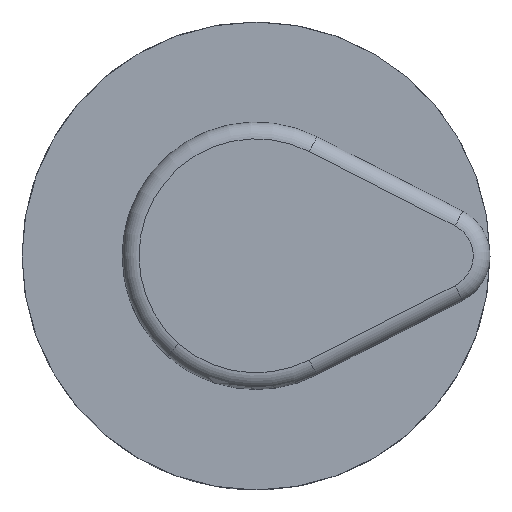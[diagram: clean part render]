
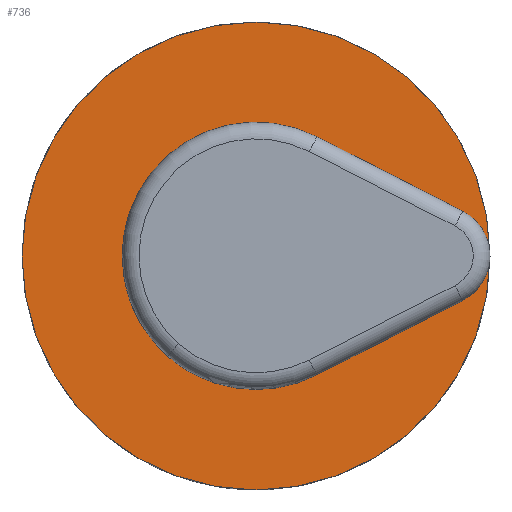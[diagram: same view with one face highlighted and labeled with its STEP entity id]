
A CAD part, top view. The second image highlights one B-rep face of the part: STEP entity #736.
In plain terms, the highlighted planar face has unit normal (0, 0, 1).
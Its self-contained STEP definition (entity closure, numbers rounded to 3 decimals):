
#331=VECTOR('Line Direction',#330,1.) ;
#348=VECTOR('Line Direction',#347,1.) ;
#379=VECTOR('Line Direction',#378,1.) ;
#396=VECTOR('Line Direction',#395,1.) ;
#427=VECTOR('Line Direction',#426,1.) ;
#439=VECTOR('Line Direction',#438,1.) ;
#470=VECTOR('Line Direction',#469,1.) ;
#487=VECTOR('Line Direction',#486,1.) ;
#513=VECTOR('Line Direction',#512,1.) ;
#530=VECTOR('Line Direction',#529,1.) ;
#556=VECTOR('Line Direction',#555,1.) ;
#568=VECTOR('Line Direction',#567,1.) ;
#330=DIRECTION('Vector Direction',(1.,0.,0.)) ;
#347=DIRECTION('Vector Direction',(0.,-1.,0.)) ;
#378=DIRECTION('Vector Direction',(1.,0.,0.)) ;
#395=DIRECTION('Vector Direction',(0.,-1.,0.)) ;
#426=DIRECTION('Vector Direction',(-1.,0.,0.)) ;
#438=DIRECTION('Vector Direction',(0.,-1.,0.)) ;
#469=DIRECTION('Vector Direction',(-1.,0.,0.)) ;
#486=DIRECTION('Vector Direction',(0.,1.,0.)) ;
#512=DIRECTION('Vector Direction',(-1.,0.,0.)) ;
#529=DIRECTION('Vector Direction',(0.,1.,0.)) ;
#555=DIRECTION('Vector Direction',(1.,0.,0.)) ;
#567=DIRECTION('Vector Direction',(0.,1.,0.)) ;
#700=DIRECTION('Axis2P3D Direction',(0.,0.,1.)) ;
#701=DIRECTION('Axis2P3D XDirection',(1.,0.,0.)) ;
#705=DIRECTION('Axis2P3D Direction',(0.,0.,1.)) ;
#714=DIRECTION('Axis2P3D Direction',(0.,0.,1.)) ;
#319=CARTESIAN_POINT('Vertex',(-0.75,2.9,1.7)) ;
#326=CARTESIAN_POINT('Vertex',(0.75,2.9,1.7)) ;
#329=CARTESIAN_POINT('Line Origine',(0.,2.9,1.7)) ;
#346=CARTESIAN_POINT('Line Origine',(-0.75,1.825,1.7)) ;
#350=CARTESIAN_POINT('Vertex',(-0.75,0.75,1.7)) ;
#374=CARTESIAN_POINT('Vertex',(-2.9,0.75,1.7)) ;
#377=CARTESIAN_POINT('Line Origine',(-1.825,0.75,1.7)) ;
#394=CARTESIAN_POINT('Line Origine',(-2.9,0.,1.7)) ;
#398=CARTESIAN_POINT('Vertex',(-2.9,-0.75,1.7)) ;
#422=CARTESIAN_POINT('Vertex',(-0.75,-0.75,1.7)) ;
#425=CARTESIAN_POINT('Line Origine',(-1.825,-0.75,1.7)) ;
#437=CARTESIAN_POINT('Line Origine',(-0.75,-1.825,1.7)) ;
#441=CARTESIAN_POINT('Vertex',(-0.75,-2.9,1.7)) ;
#465=CARTESIAN_POINT('Vertex',(0.75,-2.9,1.7)) ;
#468=CARTESIAN_POINT('Line Origine',(0.,-2.9,1.7)) ;
#485=CARTESIAN_POINT('Line Origine',(0.75,-1.825,1.7)) ;
#489=CARTESIAN_POINT('Vertex',(0.75,-0.75,1.7)) ;
#508=CARTESIAN_POINT('Vertex',(2.9,-0.75,1.7)) ;
#511=CARTESIAN_POINT('Line Origine',(1.825,-0.75,1.7)) ;
#528=CARTESIAN_POINT('Line Origine',(2.9,0.,1.7)) ;
#532=CARTESIAN_POINT('Vertex',(2.9,0.75,1.7)) ;
#551=CARTESIAN_POINT('Vertex',(0.75,0.75,1.7)) ;
#554=CARTESIAN_POINT('Line Origine',(1.825,0.75,1.7)) ;
#566=CARTESIAN_POINT('Line Origine',(0.75,1.825,1.7)) ;
#699=CARTESIAN_POINT('Axis2P3D Location',(0.,0.,1.7)) ;
#704=CARTESIAN_POINT('Axis2P3D Location',(0.,0.,1.7)) ;
#708=CARTESIAN_POINT('Vertex',(7.,0.,1.7)) ;
#710=CARTESIAN_POINT('Vertex',(-7.,0.,1.7)) ;
#713=CARTESIAN_POINT('Axis2P3D Location',(0.,0.,1.7)) ;
#702=AXIS2_PLACEMENT_3D('Plane Axis2P3D',#699,#700,#701) ;
#706=AXIS2_PLACEMENT_3D('Circle Axis2P3D',#704,#705,$) ;
#715=AXIS2_PLACEMENT_3D('Circle Axis2P3D',#713,#714,$) ;
#735=FACE_BOUND('',#722,.T.) ;
#333=EDGE_CURVE('',#320,#327,#332,.T.) ;
#352=EDGE_CURVE('',#320,#351,#349,.T.) ;
#381=EDGE_CURVE('',#375,#351,#380,.T.) ;
#400=EDGE_CURVE('',#375,#399,#397,.T.) ;
#429=EDGE_CURVE('',#423,#399,#428,.T.) ;
#443=EDGE_CURVE('',#423,#442,#440,.T.) ;
#472=EDGE_CURVE('',#466,#442,#471,.T.) ;
#491=EDGE_CURVE('',#466,#490,#488,.T.) ;
#515=EDGE_CURVE('',#509,#490,#514,.T.) ;
#534=EDGE_CURVE('',#509,#533,#531,.T.) ;
#558=EDGE_CURVE('',#552,#533,#557,.T.) ;
#570=EDGE_CURVE('',#552,#327,#569,.T.) ;
#712=EDGE_CURVE('',#709,#711,#707,.T.) ;
#717=EDGE_CURVE('',#711,#709,#716,.T.) ;
#703=PLANE('Plane',#702) ;
#719=ORIENTED_EDGE('',*,*,#712,.T.) ;
#720=ORIENTED_EDGE('',*,*,#717,.T.) ;
#723=ORIENTED_EDGE('',*,*,#429,.T.) ;
#724=ORIENTED_EDGE('',*,*,#400,.F.) ;
#725=ORIENTED_EDGE('',*,*,#381,.T.) ;
#726=ORIENTED_EDGE('',*,*,#352,.F.) ;
#727=ORIENTED_EDGE('',*,*,#333,.T.) ;
#728=ORIENTED_EDGE('',*,*,#570,.F.) ;
#729=ORIENTED_EDGE('',*,*,#558,.T.) ;
#730=ORIENTED_EDGE('',*,*,#534,.F.) ;
#731=ORIENTED_EDGE('',*,*,#515,.T.) ;
#732=ORIENTED_EDGE('',*,*,#491,.F.) ;
#733=ORIENTED_EDGE('',*,*,#472,.T.) ;
#734=ORIENTED_EDGE('',*,*,#443,.F.) ;
#332=LINE('Line',#329,#331) ;
#349=LINE('Line',#346,#348) ;
#380=LINE('Line',#377,#379) ;
#397=LINE('Line',#394,#396) ;
#428=LINE('Line',#425,#427) ;
#440=LINE('Line',#437,#439) ;
#471=LINE('Line',#468,#470) ;
#488=LINE('Line',#485,#487) ;
#514=LINE('Line',#511,#513) ;
#531=LINE('Line',#528,#530) ;
#557=LINE('Line',#554,#556) ;
#569=LINE('Line',#566,#568) ;
#736=ADVANCED_FACE('\X2\96F64EF651E04F554F53\X0\',(#721,#735),#703,.T.) ;
#707=CIRCLE('generated circle',#706,7.) ;
#716=CIRCLE('generated circle',#715,7.) ;
#320=VERTEX_POINT('',#319) ;
#327=VERTEX_POINT('',#326) ;
#351=VERTEX_POINT('',#350) ;
#375=VERTEX_POINT('',#374) ;
#399=VERTEX_POINT('',#398) ;
#423=VERTEX_POINT('',#422) ;
#442=VERTEX_POINT('',#441) ;
#466=VERTEX_POINT('',#465) ;
#490=VERTEX_POINT('',#489) ;
#509=VERTEX_POINT('',#508) ;
#533=VERTEX_POINT('',#532) ;
#552=VERTEX_POINT('',#551) ;
#709=VERTEX_POINT('',#708) ;
#711=VERTEX_POINT('',#710) ;
#718=EDGE_LOOP('',(#719,#720)) ;
#722=EDGE_LOOP('',(#723,#724,#725,#726,#727,#728,#729,#730,#731,#732,#733,#734)) ;
#721=FACE_OUTER_BOUND('',#718,.T.) ;
